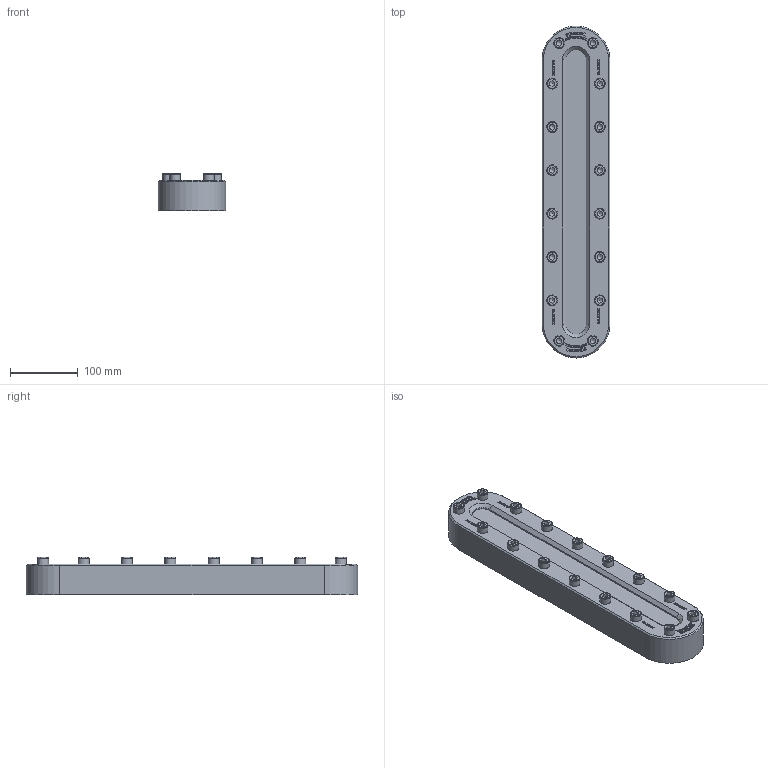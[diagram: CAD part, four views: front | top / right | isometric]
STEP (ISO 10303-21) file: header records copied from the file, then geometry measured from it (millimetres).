
FILE_DESCRIPTION(/* description */ (''),/* implementation_level */ '2;1');
FILE_NAME(/* name */ 'W:\Konstruktion_ACI\336\STEP\ACI-336-490.stp',/* time_stamp */ '2022-03-08T13:36:42+01:00',/* author */ ('Travnicek'),/* organization */ ('ACI Industriearmaturen'),/* preprocessor_version */ 'ST-DEVELOPER v16.1',/* originating_system */ 'Autodesk Inventor 2016',/* authorisation */ '');
FILE_SCHEMA (('AUTOMOTIVE_DESIGN { 1 0 10303 214 3 1 1 }'));
Length unit declared in the file: centimetre
Products named in the file (1): 336-ZB
Bounding box: 100 x 490 x 54.9 mm (x, y, z)
Volume: 1787743.4 mm3; surface area: 172830.1 mm2
Topology: 1 solids, 1 shells, 1430 faces, 3906 edges, 2596 vertices
Faces by surface type: plane 936, bspline 436, cylinder 22, cone 20, torus 16
Full cylindrical faces by diameter (mm): 16 x16
Entity records: 47740 total; most frequent: CARTESIAN_POINT 13681, ORIENTED_EDGE 7652, DIRECTION 4912, EDGE_CURVE 3826, LINE 2794, VECTOR 2794, VERTEX_POINT 2564, EDGE_LOOP 1596
